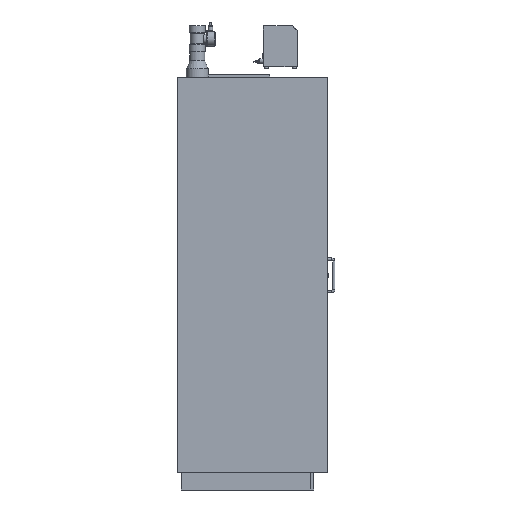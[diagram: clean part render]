
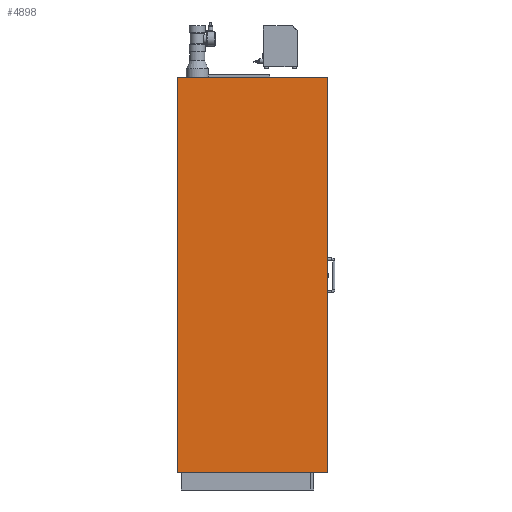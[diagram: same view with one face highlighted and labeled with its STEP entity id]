
A CAD part, left-side view. The second image highlights one B-rep face of the part: STEP entity #4898.
In plain terms, the highlighted planar face has unit normal (-1, 0, 0).
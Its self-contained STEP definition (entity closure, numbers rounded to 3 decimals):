
#127=PLANE('',#5191);
#305=LINE('',#6860,#598);
#313=LINE('',#6877,#606);
#342=LINE('',#6947,#635);
#347=LINE('',#6957,#640);
#359=LINE('',#6981,#652);
#360=LINE('',#6983,#653);
#361=LINE('',#6985,#654);
#362=LINE('',#6986,#655);
#598=VECTOR('',#5823,1000.);
#606=VECTOR('',#5833,1000.);
#635=VECTOR('',#5892,1000.);
#640=VECTOR('',#5899,1000.);
#652=VECTOR('',#5923,1000.);
#653=VECTOR('',#5926,1000.);
#654=VECTOR('',#5927,1000.);
#655=VECTOR('',#5928,1000.);
#1210=ORIENTED_EDGE('',*,*,#1910,.T.);
#1211=ORIENTED_EDGE('',*,*,#1911,.F.);
#1212=ORIENTED_EDGE('',*,*,#1912,.F.);
#1213=ORIENTED_EDGE('',*,*,#1861,.F.);
#1214=ORIENTED_EDGE('',*,*,#1893,.F.);
#1215=ORIENTED_EDGE('',*,*,#1913,.F.);
#1216=ORIENTED_EDGE('',*,*,#1898,.F.);
#1217=ORIENTED_EDGE('',*,*,#1853,.T.);
#1853=EDGE_CURVE('',#2243,#2244,#305,.T.);
#1861=EDGE_CURVE('',#2251,#2252,#313,.T.);
#1893=EDGE_CURVE('',#2277,#2251,#342,.T.);
#1898=EDGE_CURVE('',#2243,#2280,#347,.T.);
#1910=EDGE_CURVE('',#2244,#2286,#359,.T.);
#1911=EDGE_CURVE('',#2287,#2286,#360,.T.);
#1912=EDGE_CURVE('',#2252,#2287,#361,.T.);
#1913=EDGE_CURVE('',#2280,#2277,#362,.T.);
#2243=VERTEX_POINT('',#6861);
#2244=VERTEX_POINT('',#6862);
#2251=VERTEX_POINT('',#6878);
#2252=VERTEX_POINT('',#6879);
#2277=VERTEX_POINT('',#6948);
#2280=VERTEX_POINT('',#6955);
#2286=VERTEX_POINT('',#6980);
#2287=VERTEX_POINT('',#6984);
#2706=EDGE_LOOP('',(#1210,#1211,#1212,#1213,#1214,#1215,#1216,#1217));
#3011=FACE_BOUND('',#2706,.T.);
#4898=ADVANCED_FACE('',(#3011),#127,.F.);
#5191=AXIS2_PLACEMENT_3D('',#6982,#5924,#5925);
#5823=DIRECTION('',(0.,1.,0.));
#5833=DIRECTION('',(0.,1.,0.));
#5892=DIRECTION('',(0.,0.,-1.));
#5899=DIRECTION('',(0.,0.,1.));
#5923=DIRECTION('',(0.,0.,1.));
#5924=DIRECTION('',(1.,0.,0.));
#5925=DIRECTION('',(0.,0.,-1.));
#5926=DIRECTION('',(0.,-1.,0.));
#5927=DIRECTION('',(0.,0.,1.));
#5928=DIRECTION('',(0.,-1.,0.));
#6860=CARTESIAN_POINT('',(150.,564.,1954.5));
#6861=CARTESIAN_POINT('',(150.,564.,1954.5));
#6862=CARTESIAN_POINT('',(150.,583.,1954.5));
#6877=CARTESIAN_POINT('',(150.,0.,0.));
#6878=CARTESIAN_POINT('',(150.,-135.,0.));
#6879=CARTESIAN_POINT('',(150.,612.,0.));
#6947=CARTESIAN_POINT('',(150.,-135.,1956.));
#6948=CARTESIAN_POINT('',(150.,-135.,1956.));
#6955=CARTESIAN_POINT('',(150.,564.,1956.));
#6957=CARTESIAN_POINT('',(150.,564.,1954.5));
#6980=CARTESIAN_POINT('',(150.,583.,1956.));
#6981=CARTESIAN_POINT('',(150.,583.,1954.5));
#6982=CARTESIAN_POINT('',(150.,0.,0.));
#6983=CARTESIAN_POINT('',(150.,612.,1956.));
#6984=CARTESIAN_POINT('',(150.,612.,1956.));
#6985=CARTESIAN_POINT('',(150.,612.,0.));
#6986=CARTESIAN_POINT('',(150.,612.,1956.));
